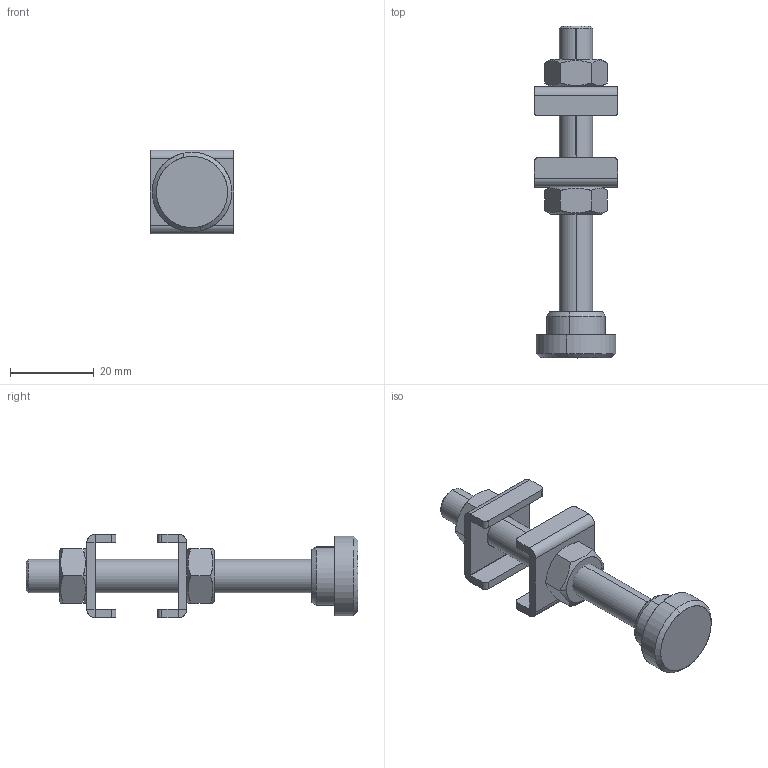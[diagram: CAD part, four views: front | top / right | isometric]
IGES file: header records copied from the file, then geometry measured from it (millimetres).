
Start section: SolidWorks IGES file using analytic representation for surfaces
Global section: file name: C:\Projetos\Ponteiras\ARP\ARP-M8.IGS; native system: SolidWorks 2011; preprocessor: SolidWorks 2011; author: Usuario; date: 110520.140737; units: millimetre
Bounding box: 20 x 79.4 x 20 mm (x, y, z)
Surface area: 7230.6 mm2 (no closed solid volume)
Topology: 0 solids, 0 shells, 120 faces, 1640 edges, 1638 vertices
Faces by surface type: revolution 62, bspline 58
